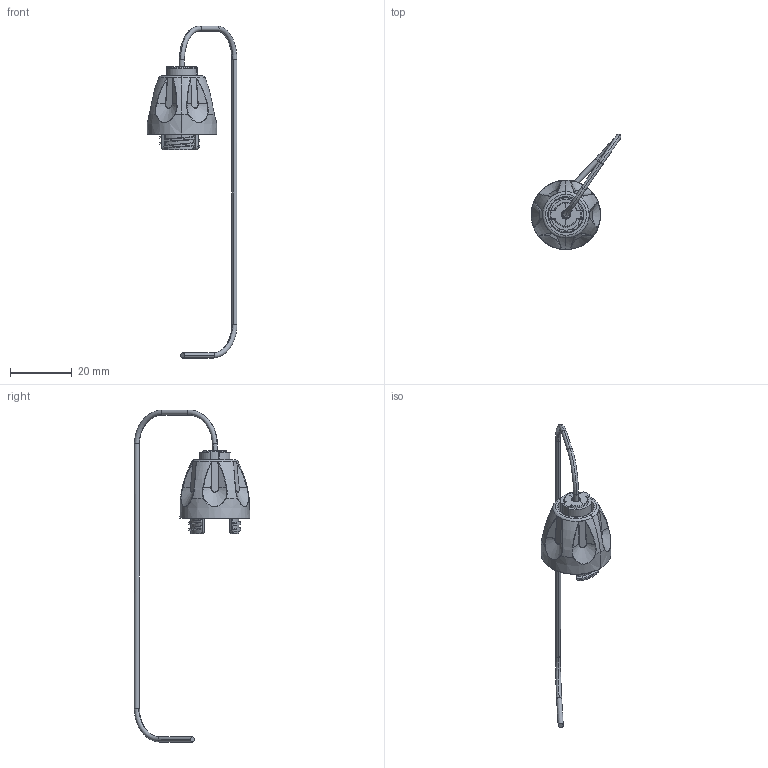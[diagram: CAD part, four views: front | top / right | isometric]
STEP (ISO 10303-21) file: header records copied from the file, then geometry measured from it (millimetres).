
FILE_DESCRIPTION (( 'STEP AP214' ), '1' );
FILE_NAME ('QMICRO-DCHPP.STEP', '2025-05-02T23:41:30', ( '' ), ( '' ), 'SwSTEP 2.0', 'SolidWorks 2024', '' );
FILE_SCHEMA (( 'AUTOMOTIVE_DESIGN' ));
Length unit declared in the file: inch
Products named in the file (1): QMICRO-DCHPP
Bounding box: 29.17 x 37.39 x 107.66 mm (x, y, z)
Volume: 5370.6 mm3; surface area: 4791.3 mm2
Topology: 1 solids, 1 shells, 336 faces, 843 edges, 512 vertices
Faces by surface type: bspline 130, cylinder 62, plane 49, torus 40, cone 35, sphere 20
Entity records: 14415 total; most frequent: CARTESIAN_POINT 7550, ORIENTED_EDGE 1686, DIRECTION 1150, EDGE_CURVE 843, VERTEX_POINT 512, AXIS2_PLACEMENT_3D 506, EDGE_LOOP 343, FACE_OUTER_BOUND 336
